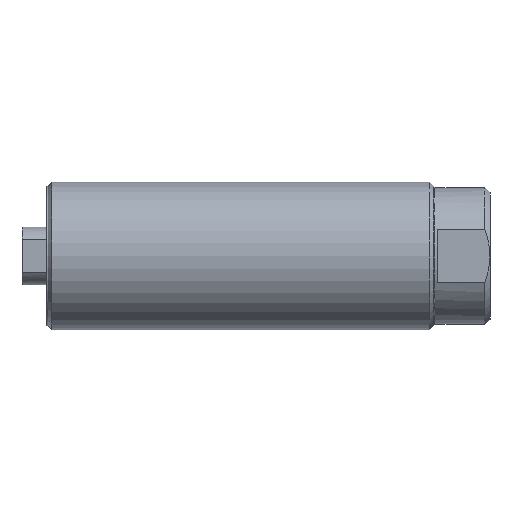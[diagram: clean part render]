
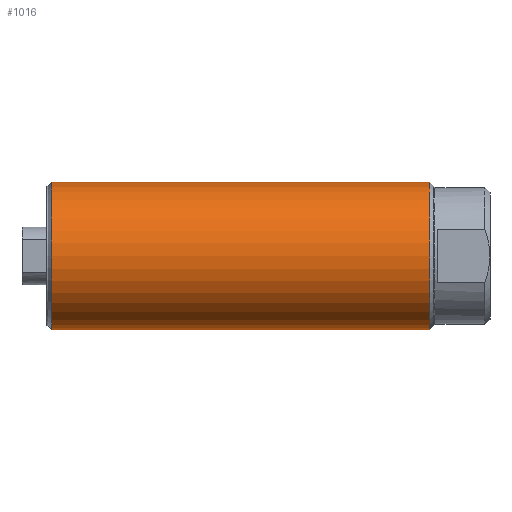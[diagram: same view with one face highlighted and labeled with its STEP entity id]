
A CAD part, top view. The second image highlights one B-rep face of the part: STEP entity #1016.
In plain terms, the highlighted cylindrical face has radius 14 mm (diameter 28 mm), a partial arc.
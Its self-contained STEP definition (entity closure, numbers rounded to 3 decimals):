
#214=CARTESIAN_POINT('',(1.,0.,0.));
#215=DIRECTION('',(-1.,0.,0.));
#216=DIRECTION('',(0.,-1.,0.));
#217=AXIS2_PLACEMENT_3D('',#214,#215,#216);
#219=CARTESIAN_POINT('',(72.8,0.,0.));
#220=DIRECTION('',(1.,0.,0.));
#221=DIRECTION('',(0.,1.,0.));
#222=AXIS2_PLACEMENT_3D('',#219,#220,#221);
#229=DIRECTION('',(-1.,0.,0.));
#230=VECTOR('',#229,71.8);
#231=CARTESIAN_POINT('',(72.8,-14.,0.));
#232=LINE('',#231,#230);
#238=DIRECTION('',(-1.,0.,0.));
#239=VECTOR('',#238,71.8);
#240=CARTESIAN_POINT('',(72.8,14.,0.));
#241=LINE('',#240,#239);
#519=CARTESIAN_POINT('',(72.8,14.,0.));
#521=VERTEX_POINT('',#519);
#523=CARTESIAN_POINT('',(72.8,-14.,0.));
#525=VERTEX_POINT('',#523);
#538=CARTESIAN_POINT('',(1.,14.,0.));
#539=CARTESIAN_POINT('',(1.,-14.,0.));
#540=VERTEX_POINT('',#538);
#541=VERTEX_POINT('',#539);
#1002=CARTESIAN_POINT('',(-4.215,0.,0.));
#1003=DIRECTION('',(1.,0.,0.));
#1004=DIRECTION('',(0.,-1.,0.));
#1005=AXIS2_PLACEMENT_3D('',#1002,#1003,#1004);
#1006=CYLINDRICAL_SURFACE('',#1005,14.);
#1007=ORIENTED_EDGE('',*,*,#996,.T.);
#1009=ORIENTED_EDGE('',*,*,#1008,.F.);
#1011=ORIENTED_EDGE('',*,*,#1010,.T.);
#1013=ORIENTED_EDGE('',*,*,#1012,.T.);
#1014=EDGE_LOOP('',(#1007,#1009,#1011,#1013));
#1015=FACE_OUTER_BOUND('',#1014,.F.);
#1016=ADVANCED_FACE('',(#1015),#1006,.T.);
#218=CIRCLE('',#217,14.);
#223=CIRCLE('',#222,14.);
#996=EDGE_CURVE('',#541,#540,#218,.T.);
#1008=EDGE_CURVE('',#521,#540,#241,.T.);
#1010=EDGE_CURVE('',#521,#525,#223,.T.);
#1012=EDGE_CURVE('',#525,#541,#232,.T.);
